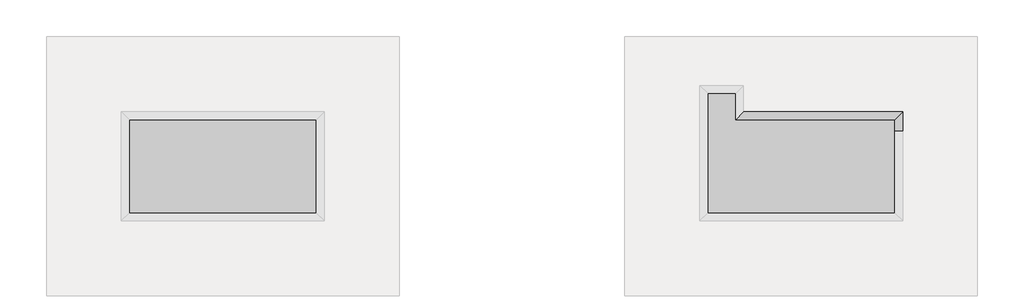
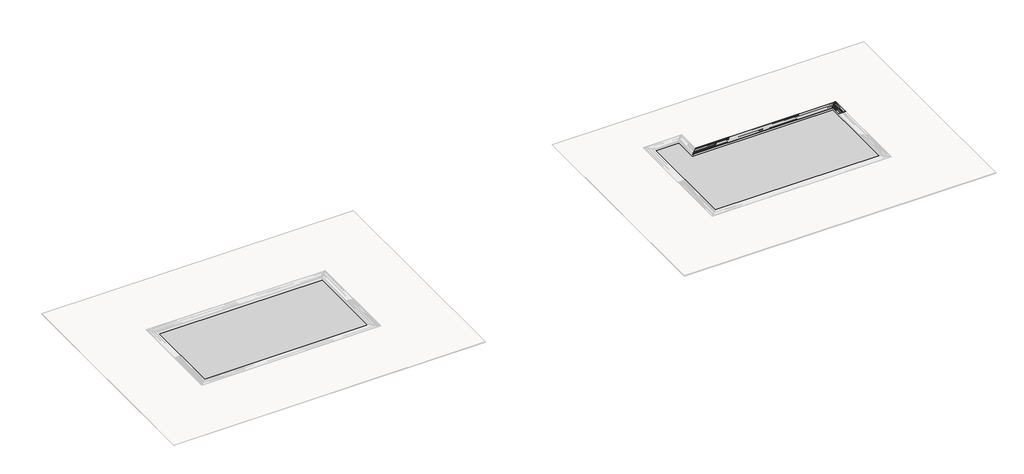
# One storey, part 6 of 6: 6 proxies.
"""IFC4 building model written with IfcOpenShell, lengths in millimetres."""

import ifcopenshell
import ifcopenshell.guid

model = None  # the IFC model being written
_history = None  # IfcOwnerHistory: only IFC2X3 demands one
_inside = {}  # id of a spatial element -> (the spatial element, [elements in it])
_under = {}  # id of a project, library or spatial element -> (it, [spatial elements below it])
_declared = {}  # id of a project -> (the project, [libraries it declares])
_typed = {}  # id of a type object -> (the type object, [elements of that type])
_made_of = {}  # id of a material, layer set ... -> (it, [elements and type objects made of it])


def new_model(schema):
    """Start an empty IFC model of exactly this schema.

    Asked for "IFC4X3", IfcOpenShell would pick the latest addendum, in which some entities
    have other attributes; the version numbers below select the first issue.
    IFC2X3 requires an IfcOwnerHistory on every rooted entity: one is made here for all.
    """
    global model, _history
    if schema == "IFC4X3":
        model = ifcopenshell.file(schema_version=(4, 3, 0, 0))
    else:
        model = ifcopenshell.file(schema=schema)
    _inside.clear()
    _under.clear()
    _declared.clear()
    _typed.clear()
    _made_of.clear()
    _history = None
    if model.schema == "IFC2X3":
        org = make("IfcOrganization", Name="unknown")
        user = make(
            "IfcPersonAndOrganization",
            ThePerson=make("IfcPerson", FamilyName="unknown"),
            TheOrganization=org,
        )
        app = make(
            "IfcApplication",
            ApplicationDeveloper=org,
            Version="unknown",
            ApplicationFullName="unknown",
            ApplicationIdentifier="unknown",
        )
        _history = make(
            "IfcOwnerHistory",
            OwningUser=user,
            OwningApplication=app,
            ChangeAction="ADDED",
            CreationDate=0,
        )
    return model


def make(cls, **values):
    """One entity of the class cls with the attributes given. An attribute that is None is left unset."""
    return model.create_entity(
        cls, **{name: value for name, value in values.items() if value is not None}
    )


def rooted(cls, **values):
    """An entity with a GlobalId (a new one), such as an element, a storey or a relation."""
    return make(cls, GlobalId=ifcopenshell.guid.new(), OwnerHistory=_history, **values)


def si_unit(unit_type, name, prefix=None):
    """IfcSIUnit, for example si_unit("LENGTHUNIT", "METRE", prefix="MILLI")."""
    return make("IfcSIUnit", UnitType=unit_type, Prefix=prefix, Name=name)


def assignment(units):
    """IfcUnitAssignment: the units of a project."""
    return None if units is None else make("IfcUnitAssignment", Units=units)


def point(xyz):
    """IfcCartesianPoint."""
    return None if xyz is None else make("IfcCartesianPoint", Coordinates=xyz)


def direction(xyz):
    """IfcDirection."""
    return None if xyz is None else make("IfcDirection", DirectionRatios=xyz)


def frame(location, z_axis=None, x_axis=None):
    """IfcAxis2Placement3D, a coordinate frame: its origin and axes. An axis left out is left unset."""
    return make(
        "IfcAxis2Placement3D",
        Location=point(location),
        Axis=direction(z_axis),
        RefDirection=direction(x_axis),
    )


def origin():
    """The frame at (0, 0, 0) with its axes left unset."""
    return frame((0.0, 0.0, 0.0))


def place(relative_to, where):
    """IfcLocalPlacement: puts the frame where relative to a parent placement (None: the world)."""
    return make(
        "IfcLocalPlacement", PlacementRelTo=relative_to, RelativePlacement=where
    )


def context(
    kind, dimensions, precision=None, world=None, true_north=None, identifier=None
):
    """IfcGeometricRepresentationContext, for example the 3D "Model" context."""
    return make(
        "IfcGeometricRepresentationContext",
        ContextIdentifier=identifier,
        ContextType=kind,
        CoordinateSpaceDimension=dimensions,
        Precision=precision,
        WorldCoordinateSystem=world,
        TrueNorth=true_north,
    )


def project(units=None, contexts=None):
    """IfcProject with its units and contexts."""
    return rooted(
        "IfcProject",
        Name="project",
        RepresentationContexts=contexts,
        UnitsInContext=assignment(units),
    )


def spatial(cls, under=None, at=None, **own):
    """A site, building, storey or space (cls), placed at a placement, below another one or the project."""
    s = rooted(cls, ObjectPlacement=at, **own)
    if under is not None:
        _under.setdefault(under.id(), (under, []))[1].append(s)
    return s


def polyline(points):
    """IfcPolyline through the points."""
    return make("IfcPolyline", Points=[point(p) for p in points])


def outline(outer, holes=None, kind="AREA"):
    """IfcArbitraryClosedProfileDef: a profile drawn as a closed curve; with holes, ...WithVoids."""
    if holes is None:
        return make("IfcArbitraryClosedProfileDef", ProfileType=kind, OuterCurve=outer)
    return make(
        "IfcArbitraryProfileDefWithVoids",
        ProfileType=kind,
        OuterCurve=outer,
        InnerCurves=holes,
    )


def extrude(swept, where, along, depth):
    """IfcExtrudedAreaSolid: the profile swept, set in the frame where, extruded along a direction by depth."""
    return make(
        "IfcExtrudedAreaSolid",
        SweptArea=swept,
        Position=where,
        ExtrudedDirection=direction(along),
        Depth=depth,
    )


def faces_of(points, faces, orient=None, outer=None):
    """IfcFace entities. A face is a list of loops; a loop is a list of indices into points, from 0.

    orient and outer hold one flag for each loop. By default every Orientation is true, the
    first loop of a face is its IfcFaceOuterBound and the others are IfcFaceBound.
    """
    made = []
    for i, loops in enumerate(faces):
        bounds = []
        for j, loop in enumerate(loops):
            is_outer = j == 0 if outer is None else outer[i][j]
            bounds.append(
                make(
                    "IfcFaceOuterBound" if is_outer else "IfcFaceBound",
                    Bound=make("IfcPolyLoop", Polygon=[points[k] for k in loop]),
                    Orientation=True if orient is None else orient[i][j],
                )
            )
        made.append(make("IfcFace", Bounds=bounds))
    return made


def faceted_brep(points, faces, orient=None, outer=None, voids=None):
    """IfcFacetedBrep: a solid bounded by flat faces; with voids (closed shells), ...WithVoids."""
    shared = [point(p) for p in points]
    hull = make("IfcClosedShell", CfsFaces=faces_of(shared, faces, orient, outer))
    if voids is None:
        return make("IfcFacetedBrep", Outer=hull)
    return make(
        "IfcFacetedBrepWithVoids",
        Outer=hull,
        Voids=[
            make(cls, CfsFaces=faces_of(shared, fs, o, b)) for cls, fs, o, b in voids
        ],
    )


def shape(context_of_items, identifier, shape_type, items):
    """IfcShapeRepresentation: the items that make up one representation, for example the "Body"."""
    return make(
        "IfcShapeRepresentation",
        ContextOfItems=context_of_items,
        RepresentationIdentifier=identifier,
        RepresentationType=shape_type,
        Items=items,
    )


def source(mapping_origin, context_of_items, identifier, shape_type, items):
    """IfcRepresentationMap: a shape defined once, which mapped items show again and again."""
    return make(
        "IfcRepresentationMap",
        MappingOrigin=mapping_origin,
        MappedRepresentation=shape(context_of_items, identifier, shape_type, items),
    )


def transform(
    local_origin,
    x_axis=None,
    y_axis=None,
    z_axis=None,
    scale=None,
    scale2=None,
    scale3=None,
    uniform=True,
):
    """IfcCartesianTransformationOperator3D, or its non-uniform kind. x_axis, y_axis, z_axis: its Axis1, 2, 3."""
    if uniform:
        return make(
            "IfcCartesianTransformationOperator3D",
            Axis1=direction(x_axis),
            Axis2=direction(y_axis),
            LocalOrigin=point(local_origin),
            Scale=scale,
            Axis3=direction(z_axis),
        )
    return make(
        "IfcCartesianTransformationOperator3DnonUniform",
        Axis1=direction(x_axis),
        Axis2=direction(y_axis),
        LocalOrigin=point(local_origin),
        Scale=scale,
        Axis3=direction(z_axis),
        Scale2=scale2,
        Scale3=scale3,
    )


def mapped(mapping_source, mapping_target):
    """IfcMappedItem: shows the shape of a source again, moved by a transform."""
    return make(
        "IfcMappedItem", MappingSource=mapping_source, MappingTarget=mapping_target
    )


def made_of(thing, what):
    """Note that an element or type object is made of a material, layer set ...; save() writes the relation."""
    if what is not None:
        _made_of.setdefault(what.id(), (what, []))[1].append(thing)
    return thing


def element(
    cls,
    number,
    at=None,
    inside=None,
    cuts=None,
    type_object=None,
    material=None,
    context=None,
    identifier="Body",
    shape_type=None,
    held_by="IfcProductDefinitionShape",
    body=None,
    shapes=None,
    **own,
):
    """One element of the class cls, such as IfcWall. Its Tag is "e" and its number.

    at: its placement. inside: the storey or other place that contains it. cuts: it is an
    opening in that element (IfcRelVoidsElement). A single representation is given by context,
    identifier, shape_type and body (its items); several are given by shapes. held_by: the class
    of the entity that holds the representations. save() writes the other relations.
    """
    e = rooted(cls, Tag="e%d" % number, ObjectPlacement=at, **own)
    if body is not None:
        shapes = [shape(context, identifier, shape_type, body)]
    if shapes is not None:
        e.Representation = make(held_by, Representations=shapes)
    if inside is not None:
        _inside.setdefault(inside.id(), (inside, []))[1].append(e)
    if cuts is not None:
        rooted(
            "IfcRelVoidsElement", RelatingBuildingElement=cuts, RelatedOpeningElement=e
        )
    if type_object is not None:
        _typed.setdefault(type_object.id(), (type_object, []))[1].append(e)
    return made_of(e, material)


def aggregate(whole, parts):
    """IfcRelAggregates: a whole, such as a stair, and the parts it consists of."""
    return rooted("IfcRelAggregates", RelatingObject=whole, RelatedObjects=parts)


def save(model, path):
    """Write the relations noted so far, then the file.

    IfcRelAggregates (storeys below a building ...), IfcRelContainedInSpatialStructure (elements
    in a storey), IfcRelDefinesByType, IfcRelAssociatesMaterial and IfcRelDeclares: one each for
    every whole, place, type object, material and project.
    """
    for whole, parts in _under.values():
        aggregate(whole, parts)
    for where, things in _inside.values():
        rooted(
            "IfcRelContainedInSpatialStructure",
            RelatedElements=things,
            RelatingStructure=where,
        )
    for kind, things in _typed.values():
        rooted("IfcRelDefinesByType", RelatedObjects=things, RelatingType=kind)
    for what, things in _made_of.values():
        rooted("IfcRelAssociatesMaterial", RelatedObjects=things, RelatingMaterial=what)
    for by, libraries in _declared.values():
        rooted("IfcRelDeclares", RelatingContext=by, RelatedDefinitions=libraries)
    model.write(path)


def agua_piscina_4_agua_piscina_6_04886d29(model_context):
    return source(origin(), model_context, "Body", "SweptSolid", [
        extrude(outline(polyline([(14047.3446426, -26751.7608223), (15167.3446426, -26751.7608223), (15167.3446426, -19951.7608223), (19167.3446426, -19951.7608223), (19167.3446426, -27951.7608223), (14047.3446426, -27951.7608223), (14047.3446426, -26751.7608223)])), frame((0.0, 0.0, 16878.9496094), z_axis=(0.0, 0.0, 1.0), x_axis=(1.0, 0.0, 0.0)), (0.0, 0.0, 1.0), 1041.3308372),
    ])


def agua_piscina_8_agua_piscina_5_230db2d3(model_context):
    return source(origin(), model_context, "Body", "SweptSolid", [
        extrude(outline(polyline([(-6311.5387858, -40989.1612333), (-6311.5387858, -44989.1612333), (-14311.5387858, -44989.1612333), (-14311.5387858, -40989.1612333), (-6311.5387858, -40989.1612333)])), frame((0.0, 0.0, 17513.3232298), z_axis=(0.0, 0.0, 1.0), x_axis=(1.0, 0.0, 0.0)), (0.0, 0.0, 1.0), 355.6383775),
    ])


model = new_model("IFC4")

# Units and contexts
model_context = context("Model", 3, world=origin())
ifc_project = project(units=[si_unit("LENGTHUNIT", "METRE", prefix="MILLI")], contexts=[model_context])

# Site, building, storey
site = spatial("IfcSite", under=ifc_project)
building = spatial("IfcBuilding", under=site)
storey = spatial("IfcBuildingStorey", under=building, Name="EXAGRES_Serie NUBIA_Piscinas_ejemplo", Elevation=18000.0)

# Proxies
placement = place(None, origin())
element("IfcBuildingElementProxy", 1, Name="Wall Sweeps", at=placement, inside=storey, context=model_context, shape_type="Brep", body=[
    faceted_brep([(12584.1171839, -4530.6632512, 18000.0), (12571.1171839, -4543.6632512, 18000.0), (12571.1171839, -4543.6632512, 18033.0), (12901.1171839, -4213.6632512, 18033.0), (12901.1171839, -4213.6632512, 18021.0), (12895.1171839, -4219.6632512, 18021.0), (12895.1171839, -4219.6632512, 18022.0), (12891.1171839, -4223.6632512, 18022.0), (12891.1171839, -4223.6632512, 18021.0), (12885.1171839, -4229.6632512, 18021.0), (12885.1171839, -4229.6632512, 18022.0), (12881.1171839, -4233.6632512, 18022.0), (12881.1171839, -4233.6632512, 18021.0), (12875.1171839, -4239.6632512, 18021.0), (12875.1171839, -4239.6632512, 18022.0), (12871.1171839, -4243.6632512, 18022.0), (12871.1171839, -4243.6632512, 18021.0), (12865.1171839, -4249.6632512, 18021.0), (12865.1171839, -4249.6632512, 18022.0), (12861.1171839, -4253.6632512, 18022.0), (12861.1171839, -4253.6632512, 18021.0), (12855.1171839, -4259.6632512, 18021.0), (12855.1171839, -4259.6632512, 18022.0), (12851.1171839, -4263.6632512, 18022.0), (12851.1171839, -4263.6632512, 18021.0), (12845.1171839, -4269.6632512, 18021.0), (12845.1171839, -4269.6632512, 18022.0), (12841.1171839, -4273.6632512, 18022.0), (12841.1171839, -4273.6632512, 18021.0), (12835.1171839, -4279.6632512, 18021.0), (12835.1171839, -4279.6632512, 18022.0), (12831.1171839, -4283.6632512, 18022.0), (12831.1171839, -4283.6632512, 18021.0), (12825.1171839, -4289.6632512, 18021.0), (12825.1171839, -4289.6632512, 18022.0), (12821.1171839, -4293.6632512, 18022.0), (12821.1171839, -4293.6632512, 18021.0), (12815.1171839, -4299.6632512, 18021.0), (12815.1171839, -4299.6632512, 18022.0), (12811.1171839, -4303.6632512, 18022.0), (12811.1171839, -4303.6632512, 18021.0), (12805.1171839, -4309.6632512, 18021.0), (12805.1171839, -4309.6632512, 18022.0), (12801.1171839, -4313.6632512, 18022.0), (12801.1171839, -4313.6632512, 18021.0), (12795.1171839, -4319.6632512, 18021.0), (12795.1171839, -4319.6632512, 18022.0), (12791.1171839, -4323.6632512, 18022.0), (12791.1171839, -4323.6632512, 18021.0), (12785.1171839, -4329.6632512, 18021.0), (12785.1171839, -4329.6632512, 18022.0), (12781.1171839, -4333.6632512, 18022.0), (12781.1171839, -4333.6632512, 18021.0), (12775.1171839, -4339.6632512, 18021.0), (12775.1171839, -4339.6632512, 18022.0), (12771.1171839, -4343.6632512, 18022.0), (12771.1171839, -4343.6632512, 18021.0), (12765.1171839, -4349.6632512, 18021.0), (12765.1171839, -4349.6632512, 18022.0), (12761.1171839, -4353.6632512, 18022.0), (12761.1171839, -4353.6632512, 18021.0), (12755.1171839, -4359.6632512, 18021.0), (12755.1171839, -4359.6632512, 18022.0), (12751.1171839, -4363.6632512, 18022.0), (12751.1171839, -4363.6632512, 18021.0), (12745.1171839, -4369.6632512, 18021.0), (12745.1171839, -4369.6632512, 18022.0), (12741.1171839, -4373.6632512, 18022.0), (12741.1171839, -4373.6632512, 18021.0), (12735.1171839, -4379.6632512, 18021.0), (12735.1171839, -4379.6632512, 18022.0), (12731.1171839, -4383.6632512, 18022.0), (12731.1171839, -4383.6632512, 18021.0), (12725.1171839, -4389.6632512, 18021.0), (12725.1171839, -4389.6632512, 18022.0), (12721.1171839, -4393.6632512, 18022.0), (12721.1171839, -4393.6632512, 18021.0), (12715.1171839, -4399.6632512, 18021.0), (12715.1171839, -4399.6632512, 18022.0), (12711.1171839, -4403.6632512, 18022.0), (12711.1171839, -4403.6632512, 18021.0), (12705.1171839, -4409.6632512, 18021.0), (12705.1171839, -4409.6632512, 18022.0), (12701.1171839, -4413.6632512, 18022.0), (12701.1171839, -4413.6632512, 18021.0), (12695.1171839, -4419.6632512, 18021.0), (12695.1171839, -4419.6632512, 18022.0), (12691.1171839, -4423.6632512, 18022.0), (12691.1171839, -4423.6632512, 18021.0), (12685.1171839, -4429.6632512, 18021.0), (12685.1171839, -4429.6632512, 18022.0), (12681.1171839, -4433.6632512, 18022.0), (12681.1171839, -4433.6632512, 18021.0), (12675.1171839, -4439.6632512, 18021.0), (12675.1171839, -4439.6632512, 18022.0), (12671.1171839, -4443.6632512, 18022.0), (12671.1171839, -4443.6632512, 18021.0), (12665.1171839, -4449.6632512, 18021.0), (12665.1171839, -4449.6632512, 18022.0), (12661.1171839, -4453.6632512, 18022.0), (12661.1171839, -4453.6632512, 18021.0), (12655.1171839, -4459.6632512, 18021.0), (12655.1171839, -4459.6632512, 18022.0), (12651.1171839, -4463.6632512, 18022.0), (12651.1171839, -4463.6632512, 18021.0), (12645.1171839, -4469.6632512, 18021.0), (12645.1171839, -4469.6632512, 18022.0), (12641.1171839, -4473.6632512, 18022.0), (12641.1171839, -4473.6632512, 18021.0), (12635.1171839, -4479.6632512, 18021.0), (12635.1171839, -4479.6632512, 18022.0), (12631.1171839, -4483.6632512, 18022.0), (12631.1171839, -4483.6632512, 18021.0), (12625.1171839, -4489.6632512, 18021.0), (12625.1171839, -4489.6632512, 18022.0), (12621.1171839, -4493.6632512, 18022.0), (12621.1171839, -4493.6632512, 18021.0), (12615.1171839, -4499.6632512, 18021.0), (12615.1171839, -4499.6632512, 18022.0), (12611.1171839, -4503.6632512, 18022.0), (12611.1171839, -4503.6632512, 18021.0), (12605.1171839, -4509.6632512, 18021.0), (12605.1171839, -4509.6632512, 18022.0), (12601.1171839, -4513.6632512, 18022.0), (12601.1171839, -4513.6632512, 18021.0), (12595.1171839, -4519.6632512, 18021.0), (12595.1171839, -4519.6632512, 18022.0), (12591.1171839, -4523.6632512, 18022.0), (12591.1171839, -4523.6632512, 18021.0), (12584.1171839, -4530.6632512, 18021.0), (12584.1171839, -4530.6632512, 18014.0), (12583.1171839, -4531.6632512, 18014.0), (12583.1171839, -4531.6632512, 18008.0), (12584.1171839, -4530.6632512, 18008.0), (19384.1171839, -4530.6632512, 18000.0), (19384.1171839, -4530.6632512, 18008.0), (19383.1171839, -4531.6632512, 18008.0), (19383.1171839, -4531.6632512, 18014.0), (19384.1171839, -4530.6632512, 18014.0), (19384.1171839, -4530.6632512, 18021.0), (19391.1171839, -4523.6632512, 18021.0), (19391.1171839, -4523.6632512, 18022.0), (19395.1171839, -4519.6632512, 18022.0), (19395.1171839, -4519.6632512, 18021.0), (19401.1171839, -4513.6632512, 18021.0), (19401.1171839, -4513.6632512, 18022.0), (19405.1171839, -4509.6632512, 18022.0), (19405.1171839, -4509.6632512, 18021.0), (19411.1171839, -4503.6632512, 18021.0), (19411.1171839, -4503.6632512, 18022.0), (19415.1171839, -4499.6632512, 18022.0), (19415.1171839, -4499.6632512, 18021.0), (19421.1171839, -4493.6632512, 18021.0), (19421.1171839, -4493.6632512, 18022.0), (19425.1171839, -4489.6632512, 18022.0), (19425.1171839, -4489.6632512, 18021.0), (19431.1171839, -4483.6632512, 18021.0), (19431.1171839, -4483.6632512, 18022.0), (19435.1171839, -4479.6632512, 18022.0), (19435.1171839, -4479.6632512, 18021.0), (19441.1171839, -4473.6632512, 18021.0), (19441.1171839, -4473.6632512, 18022.0), (19445.1171839, -4469.6632512, 18022.0), (19445.1171839, -4469.6632512, 18021.0), (19451.1171839, -4463.6632512, 18021.0), (19451.1171839, -4463.6632512, 18022.0), (19455.1171839, -4459.6632512, 18022.0), (19455.1171839, -4459.6632512, 18021.0), (19461.1171839, -4453.6632512, 18021.0), (19461.1171839, -4453.6632512, 18022.0), (19465.1171839, -4449.6632512, 18022.0), (19465.1171839, -4449.6632512, 18021.0), (19471.1171839, -4443.6632512, 18021.0), (19471.1171839, -4443.6632512, 18022.0), (19475.1171839, -4439.6632512, 18022.0), (19475.1171839, -4439.6632512, 18021.0), (19481.1171839, -4433.6632512, 18021.0), (19481.1171839, -4433.6632512, 18022.0), (19485.1171839, -4429.6632512, 18022.0), (19485.1171839, -4429.6632512, 18021.0), (19491.1171839, -4423.6632512, 18021.0), (19491.1171839, -4423.6632512, 18022.0), (19495.1171839, -4419.6632512, 18022.0), (19495.1171839, -4419.6632512, 18021.0), (19501.1171839, -4413.6632512, 18021.0), (19501.1171839, -4413.6632512, 18022.0), (19505.1171839, -4409.6632512, 18022.0), (19505.1171839, -4409.6632512, 18021.0), (19511.1171839, -4403.6632512, 18021.0), (19511.1171839, -4403.6632512, 18022.0), (19515.1171839, -4399.6632512, 18022.0), (19515.1171839, -4399.6632512, 18021.0), (19521.1171839, -4393.6632512, 18021.0), (19521.1171839, -4393.6632512, 18022.0), (19525.1171839, -4389.6632512, 18022.0), (19525.1171839, -4389.6632512, 18021.0), (19531.1171839, -4383.6632512, 18021.0), (19531.1171839, -4383.6632512, 18022.0), (19535.1171839, -4379.6632512, 18022.0), (19535.1171839, -4379.6632512, 18021.0), (19541.1171839, -4373.6632512, 18021.0), (19541.1171839, -4373.6632512, 18022.0), (19545.1171839, -4369.6632512, 18022.0), (19545.1171839, -4369.6632512, 18021.0), (19551.1171839, -4363.6632512, 18021.0), (19551.1171839, -4363.6632512, 18022.0), (19555.1171839, -4359.6632512, 18022.0), (19555.1171839, -4359.6632512, 18021.0), (19561.1171839, -4353.6632512, 18021.0), (19561.1171839, -4353.6632512, 18022.0), (19565.1171839, -4349.6632512, 18022.0), (19565.1171839, -4349.6632512, 18021.0), (19571.1171839, -4343.6632512, 18021.0), (19571.1171839, -4343.6632512, 18022.0), (19575.1171839, -4339.6632512, 18022.0), (19575.1171839, -4339.6632512, 18021.0), (19581.1171839, -4333.6632512, 18021.0), (19581.1171839, -4333.6632512, 18022.0), (19585.1171839, -4329.6632512, 18022.0), (19585.1171839, -4329.6632512, 18021.0), (19591.1171839, -4323.6632512, 18021.0), (19591.1171839, -4323.6632512, 18022.0), (19595.1171839, -4319.6632512, 18022.0), (19595.1171839, -4319.6632512, 18021.0), (19601.1171839, -4313.6632512, 18021.0), (19601.1171839, -4313.6632512, 18022.0), (19605.1171839, -4309.6632512, 18022.0), (19605.1171839, -4309.6632512, 18021.0), (19611.1171839, -4303.6632512, 18021.0), (19611.1171839, -4303.6632512, 18022.0), (19615.1171839, -4299.6632512, 18022.0), (19615.1171839, -4299.6632512, 18021.0), (19621.1171839, -4293.6632512, 18021.0), (19621.1171839, -4293.6632512, 18022.0), (19625.1171839, -4289.6632512, 18022.0), (19625.1171839, -4289.6632512, 18021.0), (19631.1171839, -4283.6632512, 18021.0), (19631.1171839, -4283.6632512, 18022.0), (19635.1171839, -4279.6632512, 18022.0), (19635.1171839, -4279.6632512, 18021.0), (19641.1171839, -4273.6632512, 18021.0), (19641.1171839, -4273.6632512, 18022.0), (19645.1171839, -4269.6632512, 18022.0), (19645.1171839, -4269.6632512, 18021.0), (19651.1171839, -4263.6632512, 18021.0), (19651.1171839, -4263.6632512, 18022.0), (19655.1171839, -4259.6632512, 18022.0), (19655.1171839, -4259.6632512, 18021.0), (19661.1171839, -4253.6632512, 18021.0), (19661.1171839, -4253.6632512, 18022.0), (19665.1171839, -4249.6632512, 18022.0), (19665.1171839, -4249.6632512, 18021.0), (19671.1171839, -4243.6632512, 18021.0), (19671.1171839, -4243.6632512, 18022.0), (19675.1171839, -4239.6632512, 18022.0), (19675.1171839, -4239.6632512, 18021.0), (19681.1171839, -4233.6632512, 18021.0), (19681.1171839, -4233.6632512, 18022.0), (19685.1171839, -4229.6632512, 18022.0), (19685.1171839, -4229.6632512, 18021.0), (19691.1171839, -4223.6632512, 18021.0), (19691.1171839, -4223.6632512, 18022.0), (19695.1171839, -4219.6632512, 18022.0), (19695.1171839, -4219.6632512, 18021.0), (19701.1171839, -4213.6632512, 18021.0), (19701.1171839, -4213.6632512, 18033.0), (19371.1171839, -4543.6632512, 18033.0), (19371.1171839, -4543.6632512, 18000.0)], [[[0, 1, 2, 3, 4, 5, 6, 7, 8, 9, 10, 11, 12, 13, 14, 15, 16, 17, 18, 19, 20, 21, 22, 23, 24, 25, 26, 27, 28, 29, 30, 31, 32, 33, 34, 35, 36, 37, 38, 39, 40, 41, 42, 43, 44, 45, 46, 47, 48, 49, 50, 51, 52, 53, 54, 55, 56, 57, 58, 59, 60, 61, 62, 63, 64, 65, 66, 67, 68, 69, 70, 71, 72, 73, 74, 75, 76, 77, 78, 79, 80, 81, 82, 83, 84, 85, 86, 87, 88, 89, 90, 91, 92, 93, 94, 95, 96, 97, 98, 99, 100, 101, 102, 103, 104, 105, 106, 107, 108, 109, 110, 111, 112, 113, 114, 115, 116, 117, 118, 119, 120, 121, 122, 123, 124, 125, 126, 127, 128, 129, 130, 131, 132, 133]], [[134, 135, 136, 137, 138, 139, 140, 141, 142, 143, 144, 145, 146, 147, 148, 149, 150, 151, 152, 153, 154, 155, 156, 157, 158, 159, 160, 161, 162, 163, 164, 165, 166, 167, 168, 169, 170, 171, 172, 173, 174, 175, 176, 177, 178, 179, 180, 181, 182, 183, 184, 185, 186, 187, 188, 189, 190, 191, 192, 193, 194, 195, 196, 197, 198, 199, 200, 201, 202, 203, 204, 205, 206, 207, 208, 209, 210, 211, 212, 213, 214, 215, 216, 217, 218, 219, 220, 221, 222, 223, 224, 225, 226, 227, 228, 229, 230, 231, 232, 233, 234, 235, 236, 237, 238, 239, 240, 241, 242, 243, 244, 245, 246, 247, 248, 249, 250, 251, 252, 253, 254, 255, 256, 257, 258, 259, 260, 261, 262, 263, 264, 265, 266, 267]], [[1, 0, 134, 267]], [[2, 1, 267, 266]], [[3, 2, 266, 265]], [[4, 3, 265, 264]], [[5, 4, 264, 263]], [[6, 5, 263, 262]], [[7, 6, 262, 261]], [[8, 7, 261, 260]], [[9, 8, 260, 259]], [[10, 9, 259, 258]], [[11, 10, 258, 257]], [[12, 11, 257, 256]], [[13, 12, 256, 255]], [[14, 13, 255, 254]], [[15, 14, 254, 253]], [[16, 15, 253, 252]], [[17, 16, 252, 251]], [[18, 17, 251, 250]], [[19, 18, 250, 249]], [[20, 19, 249, 248]], [[21, 20, 248, 247]], [[22, 21, 247, 246]], [[23, 22, 246, 245]], [[24, 23, 245, 244]], [[25, 24, 244, 243]], [[26, 25, 243, 242]], [[27, 26, 242, 241]], [[28, 27, 241, 240]], [[29, 28, 240, 239]], [[30, 29, 239, 238]], [[31, 30, 238, 237]], [[32, 31, 237, 236]], [[33, 32, 236, 235]], [[34, 33, 235, 234]], [[35, 34, 234, 233]], [[36, 35, 233, 232]], [[37, 36, 232, 231]], [[38, 37, 231, 230]], [[39, 38, 230, 229]], [[40, 39, 229, 228]], [[41, 40, 228, 227]], [[42, 41, 227, 226]], [[43, 42, 226, 225]], [[44, 43, 225, 224]], [[45, 44, 224, 223]], [[46, 45, 223, 222]], [[47, 46, 222, 221]], [[48, 47, 221, 220]], [[49, 48, 220, 219]], [[50, 49, 219, 218]], [[51, 50, 218, 217]], [[52, 51, 217, 216]], [[53, 52, 216, 215]], [[54, 53, 215, 214]], [[55, 54, 214, 213]], [[56, 55, 213, 212]], [[57, 56, 212, 211]], [[58, 57, 211, 210]], [[59, 58, 210, 209]], [[60, 59, 209, 208]], [[61, 60, 208, 207]], [[62, 61, 207, 206]], [[63, 62, 206, 205]], [[64, 63, 205, 204]], [[65, 64, 204, 203]], [[66, 65, 203, 202]], [[67, 66, 202, 201]], [[68, 67, 201, 200]], [[69, 68, 200, 199]], [[70, 69, 199, 198]], [[71, 70, 198, 197]], [[72, 71, 197, 196]], [[73, 72, 196, 195]], [[74, 73, 195, 194]], [[75, 74, 194, 193]], [[76, 75, 193, 192]], [[77, 76, 192, 191]], [[78, 77, 191, 190]], [[79, 78, 190, 189]], [[80, 79, 189, 188]], [[81, 80, 188, 187]], [[82, 81, 187, 186]], [[83, 82, 186, 185]], [[84, 83, 185, 184]], [[85, 84, 184, 183]], [[86, 85, 183, 182]], [[87, 86, 182, 181]], [[88, 87, 181, 180]], [[89, 88, 180, 179]], [[90, 89, 179, 178]], [[91, 90, 178, 177]], [[92, 91, 177, 176]], [[93, 92, 176, 175]], [[94, 93, 175, 174]], [[95, 94, 174, 173]], [[96, 95, 173, 172]], [[97, 96, 172, 171]], [[98, 97, 171, 170]], [[99, 98, 170, 169]], [[100, 99, 169, 168]], [[101, 100, 168, 167]], [[102, 101, 167, 166]], [[103, 102, 166, 165]], [[104, 103, 165, 164]], [[105, 104, 164, 163]], [[106, 105, 163, 162]], [[107, 106, 162, 161]], [[108, 107, 161, 160]], [[109, 108, 160, 159]], [[110, 109, 159, 158]], [[111, 110, 158, 157]], [[112, 111, 157, 156]], [[113, 112, 156, 155]], [[114, 113, 155, 154]], [[115, 114, 154, 153]], [[116, 115, 153, 152]], [[117, 116, 152, 151]], [[118, 117, 151, 150]], [[119, 118, 150, 149]], [[120, 119, 149, 148]], [[121, 120, 148, 147]], [[122, 121, 147, 146]], [[123, 122, 146, 145]], [[124, 123, 145, 144]], [[125, 124, 144, 143]], [[126, 125, 143, 142]], [[127, 126, 142, 141]], [[128, 127, 141, 140]], [[129, 128, 140, 139]], [[130, 129, 139, 138]], [[131, 130, 138, 137]], [[132, 131, 137, 136]], [[133, 132, 136, 135]], [[0, 133, 135, 134]]]),
])
element("IfcBuildingElementProxy", 2, Name="Wall Sweeps", at=placement, inside=storey, context=model_context, shape_type="Brep", body=[
    faceted_brep([(12891.1171839, -4223.6632512, 17818.74), (12796.1171839, -4318.6632512, 17818.74), (12586.1171839, -4528.6632512, 17818.74), (12586.1171839, -4528.6632512, 18000.0), (12586.1171839, -4528.6632512, 18018.74), (12891.1171839, -4223.6632512, 18018.74), (19691.1171839, -4223.6632512, 17818.74), (19691.1171839, -4223.6632512, 18018.74), (19386.1171839, -4528.6632512, 18018.74), (19386.1171839, -4528.6632512, 18000.0), (19386.1171839, -4528.6632512, 17818.74), (19596.1171839, -4318.6632512, 17818.74)], [[[0, 1, 2, 3, 4, 5]], [[6, 7, 8, 9, 10, 11]], [[4, 3, 2, 10, 9, 8]], [[2, 1, 0, 6, 11, 10]], [[5, 4, 8, 7]], [[0, 5, 7, 6]]]),
])
element("IfcBuildingElementProxy", 3, Name="Wall Sweeps", at=placement, inside=storey, context=model_context, shape_type="Brep", body=[
    faceted_brep([(19384.1171839, -4530.6632512, 18000.0), (19371.1171839, -4543.6632512, 18000.0), (19371.1171839, -4543.6632512, 18033.0), (19701.1171839, -4213.6632512, 18033.0), (19701.1171839, -4213.6632512, 18021.0), (19695.1171839, -4219.6632512, 18021.0), (19695.1171839, -4219.6632512, 18022.0), (19691.1171839, -4223.6632512, 18022.0), (19691.1171839, -4223.6632512, 18021.0), (19685.1171839, -4229.6632512, 18021.0), (19685.1171839, -4229.6632512, 18022.0), (19681.1171839, -4233.6632512, 18022.0), (19681.1171839, -4233.6632512, 18021.0), (19675.1171839, -4239.6632512, 18021.0), (19675.1171839, -4239.6632512, 18022.0), (19671.1171839, -4243.6632512, 18022.0), (19671.1171839, -4243.6632512, 18021.0), (19665.1171839, -4249.6632512, 18021.0), (19665.1171839, -4249.6632512, 18022.0), (19661.1171839, -4253.6632512, 18022.0), (19661.1171839, -4253.6632512, 18021.0), (19655.1171839, -4259.6632512, 18021.0), (19655.1171839, -4259.6632512, 18022.0), (19651.1171839, -4263.6632512, 18022.0), (19651.1171839, -4263.6632512, 18021.0), (19645.1171839, -4269.6632512, 18021.0), (19645.1171839, -4269.6632512, 18022.0), (19641.1171839, -4273.6632512, 18022.0), (19641.1171839, -4273.6632512, 18021.0), (19635.1171839, -4279.6632512, 18021.0), (19635.1171839, -4279.6632512, 18022.0), (19631.1171839, -4283.6632512, 18022.0), (19631.1171839, -4283.6632512, 18021.0), (19625.1171839, -4289.6632512, 18021.0), (19625.1171839, -4289.6632512, 18022.0), (19621.1171839, -4293.6632512, 18022.0), (19621.1171839, -4293.6632512, 18021.0), (19615.1171839, -4299.6632512, 18021.0), (19615.1171839, -4299.6632512, 18022.0), (19611.1171839, -4303.6632512, 18022.0), (19611.1171839, -4303.6632512, 18021.0), (19605.1171839, -4309.6632512, 18021.0), (19605.1171839, -4309.6632512, 18022.0), (19601.1171839, -4313.6632512, 18022.0), (19601.1171839, -4313.6632512, 18021.0), (19595.1171839, -4319.6632512, 18021.0), (19595.1171839, -4319.6632512, 18022.0), (19591.1171839, -4323.6632512, 18022.0), (19591.1171839, -4323.6632512, 18021.0), (19585.1171839, -4329.6632512, 18021.0), (19585.1171839, -4329.6632512, 18022.0), (19581.1171839, -4333.6632512, 18022.0), (19581.1171839, -4333.6632512, 18021.0), (19575.1171839, -4339.6632512, 18021.0), (19575.1171839, -4339.6632512, 18022.0), (19571.1171839, -4343.6632512, 18022.0), (19571.1171839, -4343.6632512, 18021.0), (19565.1171839, -4349.6632512, 18021.0), (19565.1171839, -4349.6632512, 18022.0), (19561.1171839, -4353.6632512, 18022.0), (19561.1171839, -4353.6632512, 18021.0), (19555.1171839, -4359.6632512, 18021.0), (19555.1171839, -4359.6632512, 18022.0), (19551.1171839, -4363.6632512, 18022.0), (19551.1171839, -4363.6632512, 18021.0), (19545.1171839, -4369.6632512, 18021.0), (19545.1171839, -4369.6632512, 18022.0), (19541.1171839, -4373.6632512, 18022.0), (19541.1171839, -4373.6632512, 18021.0), (19535.1171839, -4379.6632512, 18021.0), (19535.1171839, -4379.6632512, 18022.0), (19531.1171839, -4383.6632512, 18022.0), (19531.1171839, -4383.6632512, 18021.0), (19525.1171839, -4389.6632512, 18021.0), (19525.1171839, -4389.6632512, 18022.0), (19521.1171839, -4393.6632512, 18022.0), (19521.1171839, -4393.6632512, 18021.0), (19515.1171839, -4399.6632512, 18021.0), (19515.1171839, -4399.6632512, 18022.0), (19511.1171839, -4403.6632512, 18022.0), (19511.1171839, -4403.6632512, 18021.0), (19505.1171839, -4409.6632512, 18021.0), (19505.1171839, -4409.6632512, 18022.0), (19501.1171839, -4413.6632512, 18022.0), (19501.1171839, -4413.6632512, 18021.0), (19495.1171839, -4419.6632512, 18021.0), (19495.1171839, -4419.6632512, 18022.0), (19491.1171839, -4423.6632512, 18022.0), (19491.1171839, -4423.6632512, 18021.0), (19485.1171839, -4429.6632512, 18021.0), (19485.1171839, -4429.6632512, 18022.0), (19481.1171839, -4433.6632512, 18022.0), (19481.1171839, -4433.6632512, 18021.0), (19475.1171839, -4439.6632512, 18021.0), (19475.1171839, -4439.6632512, 18022.0), (19471.1171839, -4443.6632512, 18022.0), (19471.1171839, -4443.6632512, 18021.0), (19465.1171839, -4449.6632512, 18021.0), (19465.1171839, -4449.6632512, 18022.0), (19461.1171839, -4453.6632512, 18022.0), (19461.1171839, -4453.6632512, 18021.0), (19455.1171839, -4459.6632512, 18021.0), (19455.1171839, -4459.6632512, 18022.0), (19451.1171839, -4463.6632512, 18022.0), (19451.1171839, -4463.6632512, 18021.0), (19445.1171839, -4469.6632512, 18021.0), (19445.1171839, -4469.6632512, 18022.0), (19441.1171839, -4473.6632512, 18022.0), (19441.1171839, -4473.6632512, 18021.0), (19435.1171839, -4479.6632512, 18021.0), (19435.1171839, -4479.6632512, 18022.0), (19431.1171839, -4483.6632512, 18022.0), (19431.1171839, -4483.6632512, 18021.0), (19425.1171839, -4489.6632512, 18021.0), (19425.1171839, -4489.6632512, 18022.0), (19421.1171839, -4493.6632512, 18022.0), (19421.1171839, -4493.6632512, 18021.0), (19415.1171839, -4499.6632512, 18021.0), (19415.1171839, -4499.6632512, 18022.0), (19411.1171839, -4503.6632512, 18022.0), (19411.1171839, -4503.6632512, 18021.0), (19405.1171839, -4509.6632512, 18021.0), (19405.1171839, -4509.6632512, 18022.0), (19401.1171839, -4513.6632512, 18022.0), (19401.1171839, -4513.6632512, 18021.0), (19395.1171839, -4519.6632512, 18021.0), (19395.1171839, -4519.6632512, 18022.0), (19391.1171839, -4523.6632512, 18022.0), (19391.1171839, -4523.6632512, 18021.0), (19384.1171839, -4530.6632512, 18021.0), (19384.1171839, -4530.6632512, 18014.0), (19383.1171839, -4531.6632512, 18014.0), (19383.1171839, -4531.6632512, 18008.0), (19384.1171839, -4530.6632512, 18008.0), (19384.1171839, -5051.1632512, 18000.0), (19384.1171839, -5051.1632512, 18008.0), (19383.1171839, -5051.1632512, 18008.0), (19383.1171839, -5051.1632512, 18014.0), (19384.1171839, -5051.1632512, 18014.0), (19384.1171839, -5051.1632512, 18021.0), (19391.1171839, -5051.1632512, 18021.0), (19391.1171839, -5051.1632512, 18022.0), (19395.1171839, -5051.1632512, 18022.0), (19395.1171839, -5051.1632512, 18021.0), (19401.1171839, -5051.1632512, 18021.0), (19401.1171839, -5051.1632512, 18022.0), (19405.1171839, -5051.1632512, 18022.0), (19405.1171839, -5051.1632512, 18021.0), (19411.1171839, -5051.1632512, 18021.0), (19411.1171839, -5051.1632512, 18022.0), (19415.1171839, -5051.1632512, 18022.0), (19415.1171839, -5051.1632512, 18021.0), (19421.1171839, -5051.1632512, 18021.0), (19421.1171839, -5051.1632512, 18022.0), (19425.1171839, -5051.1632512, 18022.0), (19425.1171839, -5051.1632512, 18021.0), (19431.1171839, -5051.1632512, 18021.0), (19431.1171839, -5051.1632512, 18022.0), (19435.1171839, -5051.1632512, 18022.0), (19435.1171839, -5051.1632512, 18021.0), (19441.1171839, -5051.1632512, 18021.0), (19441.1171839, -5051.1632512, 18022.0), (19445.1171839, -5051.1632512, 18022.0), (19445.1171839, -5051.1632512, 18021.0), (19451.1171839, -5051.1632512, 18021.0), (19451.1171839, -5051.1632512, 18022.0), (19455.1171839, -5051.1632512, 18022.0), (19455.1171839, -5051.1632512, 18021.0), (19461.1171839, -5051.1632512, 18021.0), (19461.1171839, -5051.1632512, 18022.0), (19465.1171839, -5051.1632512, 18022.0), (19465.1171839, -5051.1632512, 18021.0), (19471.1171839, -5051.1632512, 18021.0), (19471.1171839, -5051.1632512, 18022.0), (19475.1171839, -5051.1632512, 18022.0), (19475.1171839, -5051.1632512, 18021.0), (19481.1171839, -5051.1632512, 18021.0), (19481.1171839, -5051.1632512, 18022.0), (19485.1171839, -5051.1632512, 18022.0), (19485.1171839, -5051.1632512, 18021.0), (19491.1171839, -5051.1632512, 18021.0), (19491.1171839, -5051.1632512, 18022.0), (19495.1171839, -5051.1632512, 18022.0), (19495.1171839, -5051.1632512, 18021.0), (19501.1171839, -5051.1632512, 18021.0), (19501.1171839, -5051.1632512, 18022.0), (19505.1171839, -5051.1632512, 18022.0), (19505.1171839, -5051.1632512, 18021.0), (19511.1171839, -5051.1632512, 18021.0), (19511.1171839, -5051.1632512, 18022.0), (19515.1171839, -5051.1632512, 18022.0), (19515.1171839, -5051.1632512, 18021.0), (19521.1171839, -5051.1632512, 18021.0), (19521.1171839, -5051.1632512, 18022.0), (19525.1171839, -5051.1632512, 18022.0), (19525.1171839, -5051.1632512, 18021.0), (19531.1171839, -5051.1632512, 18021.0), (19531.1171839, -5051.1632512, 18022.0), (19535.1171839, -5051.1632512, 18022.0), (19535.1171839, -5051.1632512, 18021.0), (19541.1171839, -5051.1632512, 18021.0), (19541.1171839, -5051.1632512, 18022.0), (19545.1171839, -5051.1632512, 18022.0), (19545.1171839, -5051.1632512, 18021.0), (19551.1171839, -5051.1632512, 18021.0), (19551.1171839, -5051.1632512, 18022.0), (19555.1171839, -5051.1632512, 18022.0), (19555.1171839, -5051.1632512, 18021.0), (19561.1171839, -5051.1632512, 18021.0), (19561.1171839, -5051.1632512, 18022.0), (19565.1171839, -5051.1632512, 18022.0), (19565.1171839, -5051.1632512, 18021.0), (19571.1171839, -5051.1632512, 18021.0), (19571.1171839, -5051.1632512, 18022.0), (19575.1171839, -5051.1632512, 18022.0), (19575.1171839, -5051.1632512, 18021.0), (19581.1171839, -5051.1632512, 18021.0), (19581.1171839, -5051.1632512, 18022.0), (19585.1171839, -5051.1632512, 18022.0), (19585.1171839, -5051.1632512, 18021.0), (19591.1171839, -5051.1632512, 18021.0), (19591.1171839, -5051.1632512, 18022.0), (19595.1171839, -5051.1632512, 18022.0), (19595.1171839, -5051.1632512, 18021.0), (19601.1171839, -5051.1632512, 18021.0), (19601.1171839, -5051.1632512, 18022.0), (19605.1171839, -5051.1632512, 18022.0), (19605.1171839, -5051.1632512, 18021.0), (19611.1171839, -5051.1632512, 18021.0), (19611.1171839, -5051.1632512, 18022.0), (19615.1171839, -5051.1632512, 18022.0), (19615.1171839, -5051.1632512, 18021.0), (19621.1171839, -5051.1632512, 18021.0), (19621.1171839, -5051.1632512, 18022.0), (19625.1171839, -5051.1632512, 18022.0), (19625.1171839, -5051.1632512, 18021.0), (19631.1171839, -5051.1632512, 18021.0), (19631.1171839, -5051.1632512, 18022.0), (19635.1171839, -5051.1632512, 18022.0), (19635.1171839, -5051.1632512, 18021.0), (19641.1171839, -5051.1632512, 18021.0), (19641.1171839, -5051.1632512, 18022.0), (19645.1171839, -5051.1632512, 18022.0), (19645.1171839, -5051.1632512, 18021.0), (19651.1171839, -5051.1632512, 18021.0), (19651.1171839, -5051.1632512, 18022.0), (19655.1171839, -5051.1632512, 18022.0), (19655.1171839, -5051.1632512, 18021.0), (19661.1171839, -5051.1632512, 18021.0), (19661.1171839, -5051.1632512, 18022.0), (19665.1171839, -5051.1632512, 18022.0), (19665.1171839, -5051.1632512, 18021.0), (19671.1171839, -5051.1632512, 18021.0), (19671.1171839, -5051.1632512, 18022.0), (19675.1171839, -5051.1632512, 18022.0), (19675.1171839, -5051.1632512, 18021.0), (19681.1171839, -5051.1632512, 18021.0), (19681.1171839, -5051.1632512, 18022.0), (19685.1171839, -5051.1632512, 18022.0), (19685.1171839, -5051.1632512, 18021.0), (19691.1171839, -5051.1632512, 18021.0), (19691.1171839, -5051.1632512, 18022.0), (19695.1171839, -5051.1632512, 18022.0), (19695.1171839, -5051.1632512, 18021.0), (19701.1171839, -5051.1632512, 18021.0), (19701.1171839, -5051.1632512, 18033.0), (19371.1171839, -5051.1632512, 18033.0), (19371.1171839, -5051.1632512, 18000.0)], [[[0, 1, 2, 3, 4, 5, 6, 7, 8, 9, 10, 11, 12, 13, 14, 15, 16, 17, 18, 19, 20, 21, 22, 23, 24, 25, 26, 27, 28, 29, 30, 31, 32, 33, 34, 35, 36, 37, 38, 39, 40, 41, 42, 43, 44, 45, 46, 47, 48, 49, 50, 51, 52, 53, 54, 55, 56, 57, 58, 59, 60, 61, 62, 63, 64, 65, 66, 67, 68, 69, 70, 71, 72, 73, 74, 75, 76, 77, 78, 79, 80, 81, 82, 83, 84, 85, 86, 87, 88, 89, 90, 91, 92, 93, 94, 95, 96, 97, 98, 99, 100, 101, 102, 103, 104, 105, 106, 107, 108, 109, 110, 111, 112, 113, 114, 115, 116, 117, 118, 119, 120, 121, 122, 123, 124, 125, 126, 127, 128, 129, 130, 131, 132, 133]], [[134, 135, 136, 137, 138, 139, 140, 141, 142, 143, 144, 145, 146, 147, 148, 149, 150, 151, 152, 153, 154, 155, 156, 157, 158, 159, 160, 161, 162, 163, 164, 165, 166, 167, 168, 169, 170, 171, 172, 173, 174, 175, 176, 177, 178, 179, 180, 181, 182, 183, 184, 185, 186, 187, 188, 189, 190, 191, 192, 193, 194, 195, 196, 197, 198, 199, 200, 201, 202, 203, 204, 205, 206, 207, 208, 209, 210, 211, 212, 213, 214, 215, 216, 217, 218, 219, 220, 221, 222, 223, 224, 225, 226, 227, 228, 229, 230, 231, 232, 233, 234, 235, 236, 237, 238, 239, 240, 241, 242, 243, 244, 245, 246, 247, 248, 249, 250, 251, 252, 253, 254, 255, 256, 257, 258, 259, 260, 261, 262, 263, 264, 265, 266, 267]], [[1, 0, 134, 267]], [[2, 1, 267, 266]], [[3, 2, 266, 265]], [[4, 3, 265, 264]], [[5, 4, 264, 263]], [[6, 5, 263, 262]], [[7, 6, 262, 261]], [[8, 7, 261, 260]], [[9, 8, 260, 259]], [[10, 9, 259, 258]], [[11, 10, 258, 257]], [[12, 11, 257, 256]], [[13, 12, 256, 255]], [[14, 13, 255, 254]], [[15, 14, 254, 253]], [[16, 15, 253, 252]], [[17, 16, 252, 251]], [[18, 17, 251, 250]], [[19, 18, 250, 249]], [[20, 19, 249, 248]], [[21, 20, 248, 247]], [[22, 21, 247, 246]], [[23, 22, 246, 245]], [[24, 23, 245, 244]], [[25, 24, 244, 243]], [[26, 25, 243, 242]], [[27, 26, 242, 241]], [[28, 27, 241, 240]], [[29, 28, 240, 239]], [[30, 29, 239, 238]], [[31, 30, 238, 237]], [[32, 31, 237, 236]], [[33, 32, 236, 235]], [[34, 33, 235, 234]], [[35, 34, 234, 233]], [[36, 35, 233, 232]], [[37, 36, 232, 231]], [[38, 37, 231, 230]], [[39, 38, 230, 229]], [[40, 39, 229, 228]], [[41, 40, 228, 227]], [[42, 41, 227, 226]], [[43, 42, 226, 225]], [[44, 43, 225, 224]], [[45, 44, 224, 223]], [[46, 45, 223, 222]], [[47, 46, 222, 221]], [[48, 47, 221, 220]], [[49, 48, 220, 219]], [[50, 49, 219, 218]], [[51, 50, 218, 217]], [[52, 51, 217, 216]], [[53, 52, 216, 215]], [[54, 53, 215, 214]], [[55, 54, 214, 213]], [[56, 55, 213, 212]], [[57, 56, 212, 211]], [[58, 57, 211, 210]], [[59, 58, 210, 209]], [[60, 59, 209, 208]], [[61, 60, 208, 207]], [[62, 61, 207, 206]], [[63, 62, 206, 205]], [[64, 63, 205, 204]], [[65, 64, 204, 203]], [[66, 65, 203, 202]], [[67, 66, 202, 201]], [[68, 67, 201, 200]], [[69, 68, 200, 199]], [[70, 69, 199, 198]], [[71, 70, 198, 197]], [[72, 71, 197, 196]], [[73, 72, 196, 195]], [[74, 73, 195, 194]], [[75, 74, 194, 193]], [[76, 75, 193, 192]], [[77, 76, 192, 191]], [[78, 77, 191, 190]], [[79, 78, 190, 189]], [[80, 79, 189, 188]], [[81, 80, 188, 187]], [[82, 81, 187, 186]], [[83, 82, 186, 185]], [[84, 83, 185, 184]], [[85, 84, 184, 183]], [[86, 85, 183, 182]], [[87, 86, 182, 181]], [[88, 87, 181, 180]], [[89, 88, 180, 179]], [[90, 89, 179, 178]], [[91, 90, 178, 177]], [[92, 91, 177, 176]], [[93, 92, 176, 175]], [[94, 93, 175, 174]], [[95, 94, 174, 173]], [[96, 95, 173, 172]], [[97, 96, 172, 171]], [[98, 97, 171, 170]], [[99, 98, 170, 169]], [[100, 99, 169, 168]], [[101, 100, 168, 167]], [[102, 101, 167, 166]], [[103, 102, 166, 165]], [[104, 103, 165, 164]], [[105, 104, 164, 163]], [[106, 105, 163, 162]], [[107, 106, 162, 161]], [[108, 107, 161, 160]], [[109, 108, 160, 159]], [[110, 109, 159, 158]], [[111, 110, 158, 157]], [[112, 111, 157, 156]], [[113, 112, 156, 155]], [[114, 113, 155, 154]], [[115, 114, 154, 153]], [[116, 115, 153, 152]], [[117, 116, 152, 151]], [[118, 117, 151, 150]], [[119, 118, 150, 149]], [[120, 119, 149, 148]], [[121, 120, 148, 147]], [[122, 121, 147, 146]], [[123, 122, 146, 145]], [[124, 123, 145, 144]], [[125, 124, 144, 143]], [[126, 125, 143, 142]], [[127, 126, 142, 141]], [[128, 127, 141, 140]], [[129, 128, 140, 139]], [[130, 129, 139, 138]], [[131, 130, 138, 137]], [[132, 131, 137, 136]], [[133, 132, 136, 135]], [[0, 133, 135, 134]]]),
])
element("IfcBuildingElementProxy", 4, Name="Wall Sweeps", at=placement, inside=storey, context=model_context, shape_type="Brep", body=[
    faceted_brep([(19691.1171839, -4223.6632512, 17818.74), (19596.1171839, -4318.6632512, 17818.74), (19386.1171839, -4528.6632512, 17818.74), (19386.1171839, -4528.6632512, 18000.0), (19386.1171839, -4528.6632512, 18018.74), (19691.1171839, -4223.6632512, 18018.74), (19691.1171839, -5051.1632512, 17818.74), (19691.1171839, -5051.1632512, 18018.74), (19386.1171839, -5051.1632512, 18018.74), (19386.1171839, -5051.1632512, 18000.0), (19386.1171839, -5051.1632512, 17818.74), (19596.1171839, -5051.1632512, 17818.74)], [[[0, 1, 2, 3, 4, 5]], [[6, 7, 8, 9, 10, 11]], [[4, 3, 2, 10, 9, 8]], [[2, 1, 0, 6, 11, 10]], [[5, 4, 8, 7]], [[0, 5, 7, 6]]]),
])
agua_piscina_4_agua_piscina_6_shape = agua_piscina_4_agua_piscina_6_04886d29(model_context)
element("IfcBuildingElementProxy", 5, Name="Agua Piscina_4 : Agua Piscina_6", ObjectType="Agua Piscina_4 : Agua Piscina_6", at=placement, inside=storey, context=model_context, shape_type="MappedRepresentation", body=[
    mapped(agua_piscina_4_agua_piscina_6_shape, transform((39322.8780062, 10623.6813914, 0.0), x_axis=(0.0, -1.0, 0.0), y_axis=(1.0, 0.0, 0.0), z_axis=(0.0, 0.0, 1.0))),
])
agua_piscina_8_agua_piscina_5_shape = agua_piscina_8_agua_piscina_5_230db2d3(model_context)
element("IfcBuildingElementProxy", 6, Name="Agua Piscina_8 : Agua Piscina_5", ObjectType="Agua Piscina_8 : Agua Piscina_5", at=placement, inside=storey, context=model_context, shape_type="MappedRepresentation", body=[
    mapped(agua_piscina_8_agua_piscina_5_shape, transform((982.6559697, 36445.4979821, 0.0), x_axis=(1.0, 0.0, 0.0), y_axis=(0.0, 1.0, 0.0), z_axis=(0.0, 0.0, 1.0))),
])

save(model, "model.ifc")
